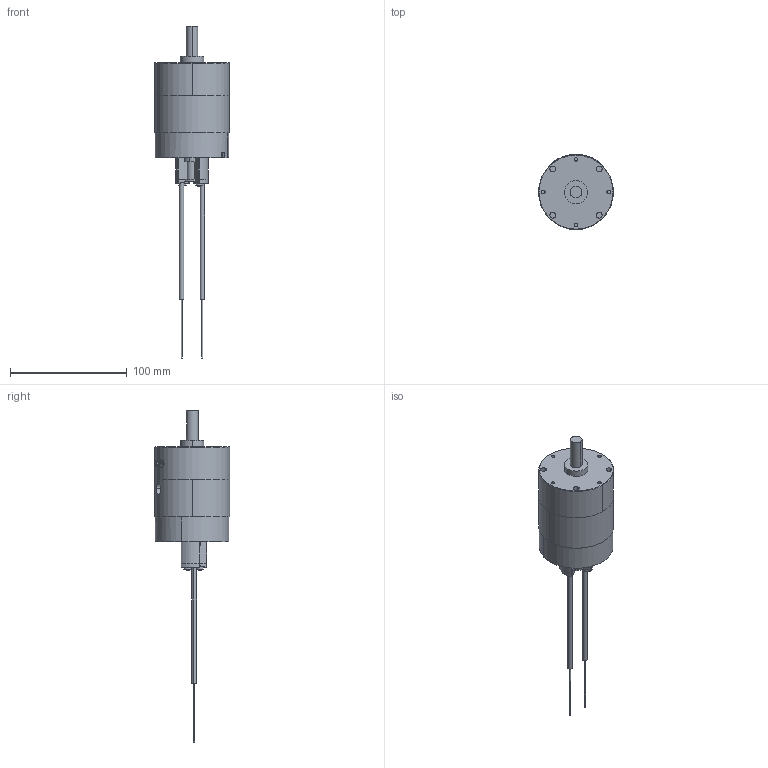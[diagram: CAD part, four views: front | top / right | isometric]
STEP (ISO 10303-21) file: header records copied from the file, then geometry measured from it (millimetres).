
FILE_DESCRIPTION (( 'STEP AP203' ), '1' );
FILE_NAME ('PRO30S_D-#-#-#-FR.STEP', '2016-02-04T06:52:51', ( 'Sam Lin' ), ( '' ), 'SwSTEP 2.0', 'SolidWorks 2013', '' );
FILE_SCHEMA (( 'CONFIG_CONTROL_DESIGN' ));
Length unit declared in the file: metre
Products named in the file (12): PROA30D-#-#-#-FR (4); PROA30D-#-#-#-FR (2); PROA30D-#-#-#-FR (5); PROA30D-#-# (2); PROA30D-#-#-#-FR (7); PROA30D-#-# (3); PROA30D-#-#-#-FR (1); PROA30D-#-# (1); PRO30S_D-#-#-#-FR; PROA30D-#-# (5); PROA30D-#-# (7); mark-PROA30S
Assembly tree (15 placements, depth 2):
  PRO30S_D-#-#-#-FR
    PROA30D-#-# (2)
    PROA30D-#-# (3)
    PROA30D-#-# (1)
    PROA30D-#-# (5)
    PROA30D-#-# (7)
    mark-PROA30S
    PROA30D-#-#-#-FR (4)
    PROA30D-#-#-#-FR (2)  x2
    PROA30D-#-#-#-FR (5)  x2
    PROA30D-#-#-#-FR (7)  x2
    PROA30D-#-#-#-FR (1)  x2
Bounding box: 64 x 64.3 x 284.2 mm (x, y, z)
Volume: 217256.7 mm3; surface area: 59627 mm2
Topology: 23 solids, 23 shells, 511 faces, 1252 edges, 832 vertices
Faces by surface type: cylinder 233, plane 229, bspline 39, cone 10
Entity records: 18861 total; most frequent: CARTESIAN_POINT 6758, DIRECTION 2297, ORIENTED_EDGE 2178, EDGE_CURVE 1089, AXIS2_PLACEMENT_3D 885, VERTEX_POINT 726, LINE 527, VECTOR 527
